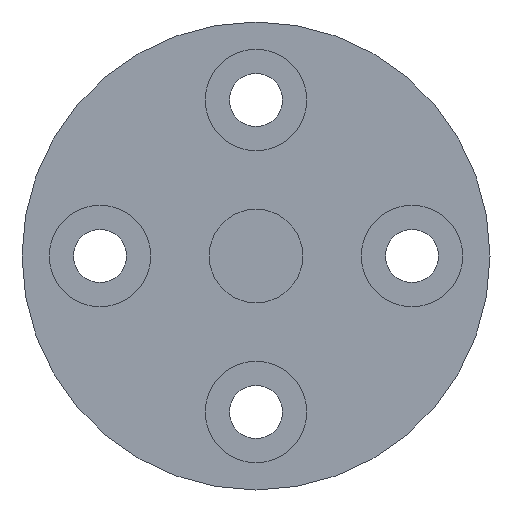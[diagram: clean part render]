
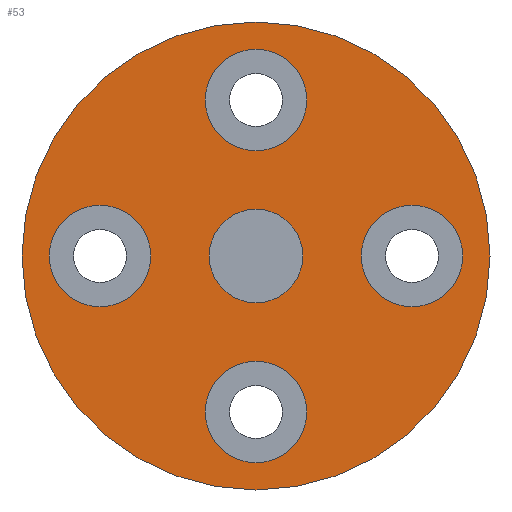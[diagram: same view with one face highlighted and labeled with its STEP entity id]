
A CAD part, front view. The second image highlights one B-rep face of the part: STEP entity #53.
In plain terms, the highlighted planar face has unit normal (0, -1, 0).
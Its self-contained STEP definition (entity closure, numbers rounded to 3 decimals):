
#44=PLANE('',#287);
#53=ADVANCED_FACE('',(#84,#85,#86,#87,#88,#89),#44,.F.);
#84=FACE_BOUND('',#126,.T.);
#85=FACE_BOUND('',#127,.T.);
#86=FACE_BOUND('',#128,.T.);
#87=FACE_BOUND('',#129,.T.);
#88=FACE_BOUND('',#130,.T.);
#89=FACE_BOUND('',#131,.T.);
#126=EDGE_LOOP('',(#170));
#127=EDGE_LOOP('',(#171));
#128=EDGE_LOOP('',(#172));
#129=EDGE_LOOP('',(#173));
#130=EDGE_LOOP('',(#174));
#131=EDGE_LOOP('',(#175));
#170=ORIENTED_EDGE('',*,*,#236,.F.);
#171=ORIENTED_EDGE('',*,*,#237,.T.);
#172=ORIENTED_EDGE('',*,*,#235,.T.);
#173=ORIENTED_EDGE('',*,*,#238,.T.);
#174=ORIENTED_EDGE('',*,*,#239,.T.);
#175=ORIENTED_EDGE('',*,*,#240,.T.);
#213=VERTEX_POINT('',#408);
#214=VERTEX_POINT('',#411);
#215=VERTEX_POINT('',#413);
#216=VERTEX_POINT('',#415);
#217=VERTEX_POINT('',#417);
#218=VERTEX_POINT('',#419);
#235=EDGE_CURVE('',#213,#213,#257,.T.);
#236=EDGE_CURVE('',#214,#214,#258,.T.);
#237=EDGE_CURVE('',#215,#215,#259,.T.);
#238=EDGE_CURVE('',#216,#216,#260,.T.);
#239=EDGE_CURVE('',#217,#217,#261,.T.);
#240=EDGE_CURVE('',#218,#218,#262,.T.);
#257=CIRCLE('',#280,15.);
#258=CIRCLE('',#282,3.);
#259=CIRCLE('',#283,3.25);
#260=CIRCLE('',#284,3.25);
#261=CIRCLE('',#285,3.25);
#262=CIRCLE('',#286,3.25);
#280=AXIS2_PLACEMENT_3D('',#407,#324,#325);
#282=AXIS2_PLACEMENT_3D('',#410,#328,#329);
#283=AXIS2_PLACEMENT_3D('',#412,#330,#331);
#284=AXIS2_PLACEMENT_3D('',#414,#332,#333);
#285=AXIS2_PLACEMENT_3D('',#416,#334,#335);
#286=AXIS2_PLACEMENT_3D('',#418,#336,#337);
#287=AXIS2_PLACEMENT_3D('',#420,#338,#339);
#324=DIRECTION('',(0.,-1.,0.));
#325=DIRECTION('',(1.,0.,0.));
#328=DIRECTION('',(0.,-1.,0.));
#329=DIRECTION('',(0.,0.,1.));
#330=DIRECTION('',(0.,1.,0.));
#331=DIRECTION('',(0.,0.,1.));
#332=DIRECTION('',(0.,1.,0.));
#333=DIRECTION('',(1.,0.,0.));
#334=DIRECTION('',(0.,1.,0.));
#335=DIRECTION('',(0.,0.,-1.));
#336=DIRECTION('',(0.,1.,0.));
#337=DIRECTION('',(-1.,0.,0.));
#338=DIRECTION('',(0.,1.,0.));
#339=DIRECTION('',(0.,0.,1.));
#407=CARTESIAN_POINT('',(450.,246.5,402.));
#408=CARTESIAN_POINT('',(465.,246.5,402.));
#410=CARTESIAN_POINT('',(450.,246.5,402.));
#411=CARTESIAN_POINT('',(450.,246.5,405.));
#412=CARTESIAN_POINT('',(450.,246.5,412.));
#413=CARTESIAN_POINT('',(450.,246.5,415.25));
#414=CARTESIAN_POINT('',(460.,246.5,402.));
#415=CARTESIAN_POINT('',(463.25,246.5,402.));
#416=CARTESIAN_POINT('',(450.,246.5,392.));
#417=CARTESIAN_POINT('',(450.,246.5,388.75));
#418=CARTESIAN_POINT('',(440.,246.5,402.));
#419=CARTESIAN_POINT('',(436.75,246.5,402.));
#420=CARTESIAN_POINT('',(450.,246.5,402.));
